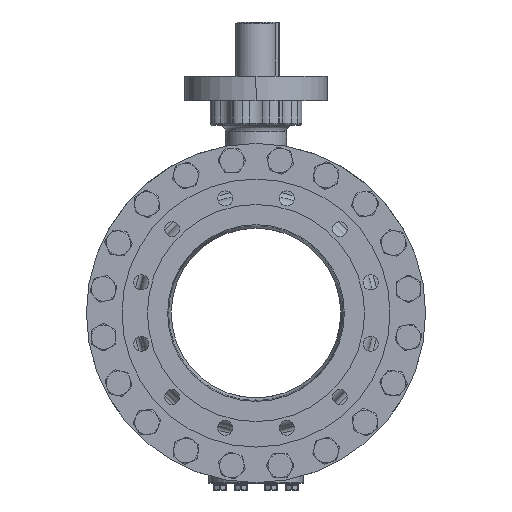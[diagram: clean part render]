
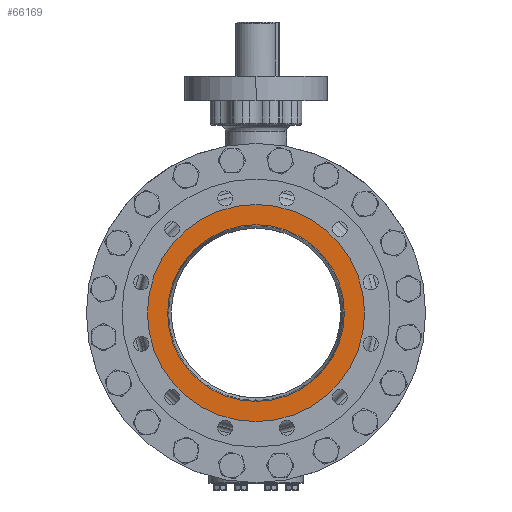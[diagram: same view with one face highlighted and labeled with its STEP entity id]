
A CAD part, left-side view. The second image highlights one B-rep face of the part: STEP entity #66169.
In plain terms, the highlighted planar face has unit normal (-1, 0, 0).
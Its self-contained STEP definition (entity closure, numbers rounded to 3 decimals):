
#4100=CARTESIAN_POINT('',(-266.5,0.,0.));
#4101=DIRECTION('',(1.,0.,0.));
#4102=DIRECTION('',(0.,0.,1.));
#4103=AXIS2_PLACEMENT_3D('',#4100,#4101,#4102);
#4105=CARTESIAN_POINT('',(-266.5,0.,0.));
#4106=DIRECTION('',(1.,0.,0.));
#4107=DIRECTION('',(0.,0.,-1.));
#4108=AXIS2_PLACEMENT_3D('',#4105,#4106,#4107);
#4110=CARTESIAN_POINT('',(-266.5,0.,0.));
#4111=DIRECTION('',(1.,0.,0.));
#4112=DIRECTION('',(0.,0.,1.));
#4113=AXIS2_PLACEMENT_3D('',#4110,#4111,#4112);
#4115=CARTESIAN_POINT('',(-266.5,0.,0.));
#4116=DIRECTION('',(-1.,0.,0.));
#4117=DIRECTION('',(0.,0.,1.));
#4118=AXIS2_PLACEMENT_3D('',#4115,#4116,#4117);
#55539=CARTESIAN_POINT('',(-266.5,0.,130.2));
#55541=VERTEX_POINT('',#55539);
#55543=CARTESIAN_POINT('',(-266.5,0.,-130.2));
#55545=VERTEX_POINT('',#55543);
#55574=CARTESIAN_POINT('',(-266.5,0.,160.));
#55575=CARTESIAN_POINT('',(-266.5,0.,-160.));
#55576=VERTEX_POINT('',#55574);
#55577=VERTEX_POINT('',#55575);
#66153=CARTESIAN_POINT('',(-266.5,0.,0.));
#66154=DIRECTION('',(-1.,0.,0.));
#66155=DIRECTION('',(0.,0.,-1.));
#66156=AXIS2_PLACEMENT_3D('',#66153,#66154,#66155);
#66157=PLANE('',#66156);
#66159=ORIENTED_EDGE('',*,*,#66158,.T.);
#66160=ORIENTED_EDGE('',*,*,#66143,.T.);
#66161=EDGE_LOOP('',(#66159,#66160));
#66162=FACE_OUTER_BOUND('',#66161,.F.);
#66164=ORIENTED_EDGE('',*,*,#66163,.F.);
#66166=ORIENTED_EDGE('',*,*,#66165,.T.);
#66167=EDGE_LOOP('',(#66164,#66166));
#66168=FACE_BOUND('',#66167,.F.);
#66169=ADVANCED_FACE('',(#66162,#66168),#66157,.T.);
#4104=CIRCLE('',#4103,160.);
#4109=CIRCLE('',#4108,160.);
#4114=CIRCLE('',#4113,130.2);
#4119=CIRCLE('',#4118,130.2);
#66143=EDGE_CURVE('',#55577,#55576,#4109,.T.);
#66158=EDGE_CURVE('',#55576,#55577,#4104,.T.);
#66163=EDGE_CURVE('',#55541,#55545,#4114,.T.);
#66165=EDGE_CURVE('',#55541,#55545,#4119,.T.);
